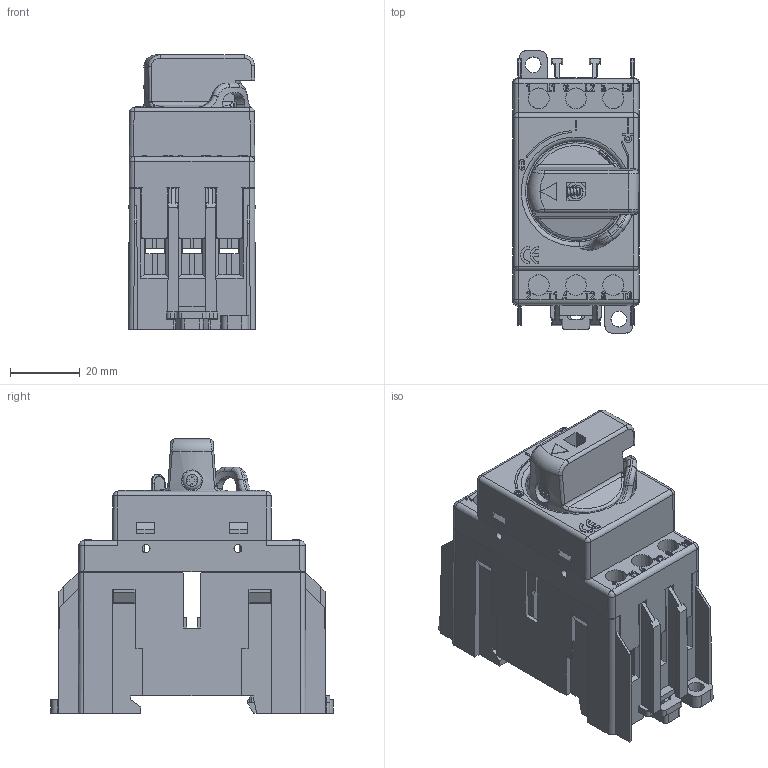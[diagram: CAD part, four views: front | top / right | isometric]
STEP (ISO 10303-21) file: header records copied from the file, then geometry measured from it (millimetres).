
FILE_DESCRIPTION((''),'2;1');
FILE_NAME('Z:\PROGETTI INVENTOR\DIEGO\4 COMMERCIALE - PRODUZIONE - INFORMATIVA\MATERIALE DI COSTRUZIONE\BLOCCHI SOLIDI 2013\BLOCCHI SOLIDI SD1\BLOCCHO SD1 3P 2013.stp','2013-02-19T15:23:37',('diego'),(''),'Autodesk Inventor 2013','Autodesk Inventor 2013','');
FILE_SCHEMA(('AUTOMOTIVE_DESIGN { 1 0 10303 214 1 1 1 1 }'));
Length unit declared in the file: millimetre
Products named in the file (1): BLOCCO SD1 3P 2013
Bounding box: 36.42 x 81 x 78.85 mm (x, y, z)
Volume: 48261.1 mm3; surface area: 70402.5 mm2
Topology: 2 solids, 2 shells, 1532 faces, 4420 edges, 2885 vertices
Faces by surface type: plane 1197, cylinder 206, cone 76, bspline 34, sphere 10, torus 9
Full cylindrical faces by diameter (mm): 1.2 x1, 2.3 x4, 5.4 x1, 6 x1, 12.7 x1, 15.2 x1, 16.1 x1, 24 x1
Entity records: 52878 total; most frequent: CARTESIAN_POINT 11600, ORIENTED_EDGE 8690, DIRECTION 7755, EDGE_CURVE 4345, VECTOR 3499, LINE 3499, VERTEX_POINT 2868, AXIS2_PLACEMENT_3D 2128
